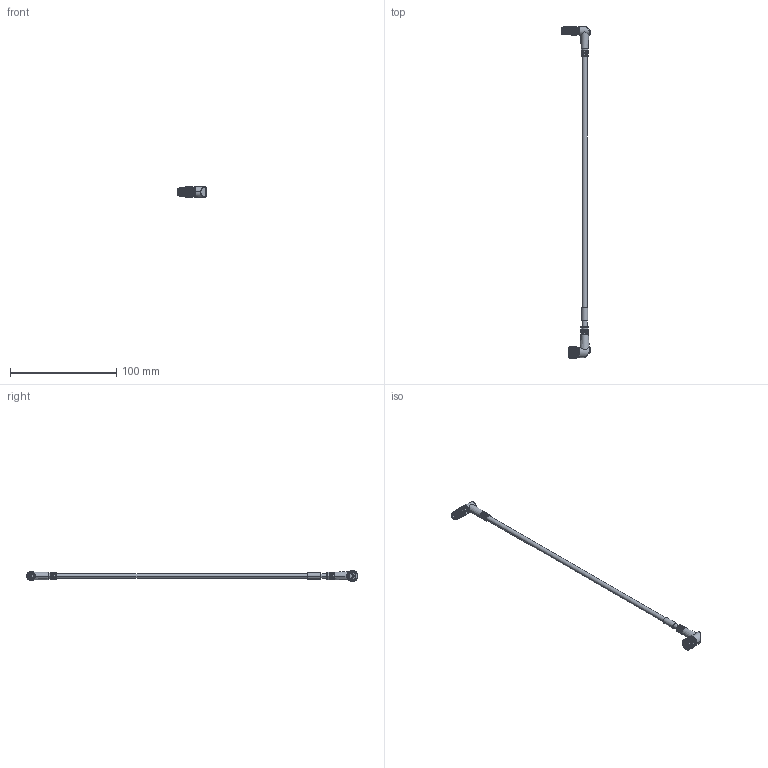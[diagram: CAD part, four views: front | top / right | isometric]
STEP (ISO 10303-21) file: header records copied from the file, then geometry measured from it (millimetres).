
FILE_DESCRIPTION((''),'2;1');
FILE_NAME('889P-P3ABPE-2_ASM','2015-04-10T',('20066374'),('Rockwell Automation'),'PRO/ENGINEER BY PARAMETRIC TECHNOLOGY CORPORATION, 2009140','PRO/ENGINEER BY PARAMETRIC TECHNOLOGY CORPORATION, 2009140','');
FILE_SCHEMA(('CONFIG_CONTROL_DESIGN'));
Length unit declared in the file: inch
Products named in the file (3): 889P-R3AB-2; 889P-E3AB-2; 889P-P3ABPE-2_ASM
Assembly tree (2 placements, depth 2):
  889P-P3ABPE-2_ASM
    889P-R3AB-2
    889P-E3AB-2
Bounding box: 26.49 x 312.81 x 10.6 mm (x, y, z)
Volume: 8286.2 mm3; surface area: 7197 mm2
Topology: 3 solids, 3 shells, 802 faces, 1953 edges, 1183 vertices
Faces by surface type: plane 365, cylinder 303, cone 92, torus 34, bspline 4, sphere 4
Entity records: 24758 total; most frequent: CARTESIAN_POINT 5785, DIRECTION 4104, ORIENTED_EDGE 3906, EDGE_CURVE 1953, AXIS2_PLACEMENT_3D 1574, VERTEX_POINT 1183, VECTOR 956, LINE 956
